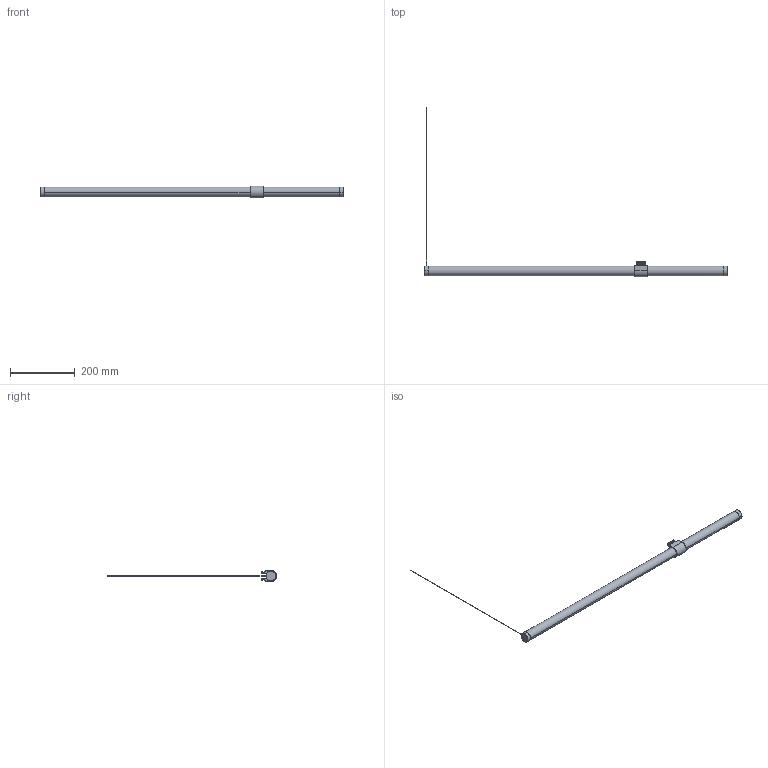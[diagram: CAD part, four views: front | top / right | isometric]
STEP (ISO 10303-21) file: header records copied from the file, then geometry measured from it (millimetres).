
FILE_DESCRIPTION (( 'STEP AP214' ), '1' );
FILE_NAME ('ACTUXCXXXXLA1XX.STEP', '2023-08-29T07:43:33', ( '' ), ( '' ), 'SwSTEP 2.0', 'SolidWorks 2023', '' );
FILE_SCHEMA (( 'AUTOMOTIVE_DESIGN' ));
Length unit declared in the file: millimetre
Products named in the file (6): WSCA01193000B2830B; WSCP2E0044-1400-01; WSCP2E0048-1400-00; WSCP2E0004-1400-02; WSVBPAR091225XX-00; ACTUXCXXXXLA1XX
Assembly tree (5 placements, depth 2):
  ACTUXCXXXXLA1XX
    WSVBPAR091225XX-00
    WSCP2E0004-1400-02
    WSCA01193000B2830B
    WSCP2E0044-1400-01
    WSCP2E0048-1400-00
Bounding box: 935.9 x 523.81 x 36.2 mm (x, y, z)
Volume: 250364.2 mm3; surface area: 176273.5 mm2
Topology: 5 solids, 5 shells, 1705 faces, 4078 edges, 2190 vertices
Faces by surface type: cylinder 694, torus 380, bspline 279, plane 206, sphere 136, cone 10
Entity records: 53130 total; most frequent: CARTESIAN_POINT 16045, DIRECTION 8322, ORIENTED_EDGE 7600, EDGE_CURVE 3800, AXIS2_PLACEMENT_3D 3554, CIRCLE 2120, VERTEX_POINT 2106, EDGE_LOOP 1726
